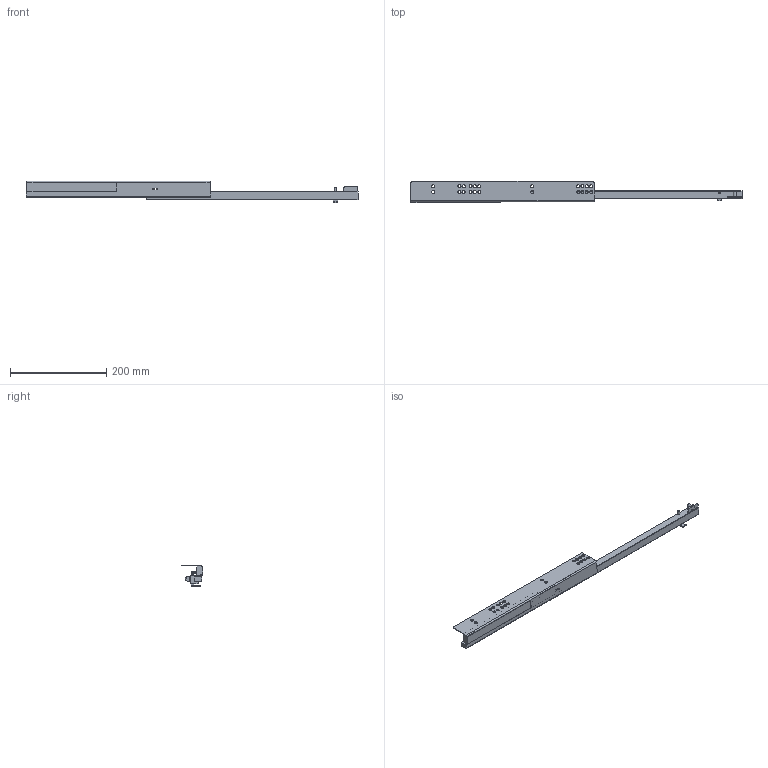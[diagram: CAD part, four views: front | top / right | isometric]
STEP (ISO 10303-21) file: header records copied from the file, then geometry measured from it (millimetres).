
FILE_DESCRIPTION (( 'STEP AP203' ), '1' );
FILE_NAME ('GG10600H-L-DTC3D-open.STEP', '2021-07-02T01:11:22', ( 'df' ), ( 'Microsoft' ), 'SwSTEP 2.0', 'SolidWorks 2018', '' );
FILE_SCHEMA (( 'CONFIG_CONTROL_DESIGN' ));
Length unit declared in the file: millimetre
Products named in the file (1): GG10600H-L-DTC3D-open
Bounding box: 691 x 44.1 x 44.73 mm (x, y, z)
Volume: 246377 mm3; surface area: 94404.1 mm2
Topology: 1 solids, 1 shells, 180 faces, 503 edges, 327 vertices
Faces by surface type: cylinder 92, plane 80, bspline 4, sphere 2, cone 2
Entity records: 6030 total; most frequent: CARTESIAN_POINT 1175, ORIENTED_EDGE 1002, DIRECTION 999, EDGE_CURVE 501, AXIS2_PLACEMENT_3D 351, VERTEX_POINT 327, VECTOR 297, LINE 297
